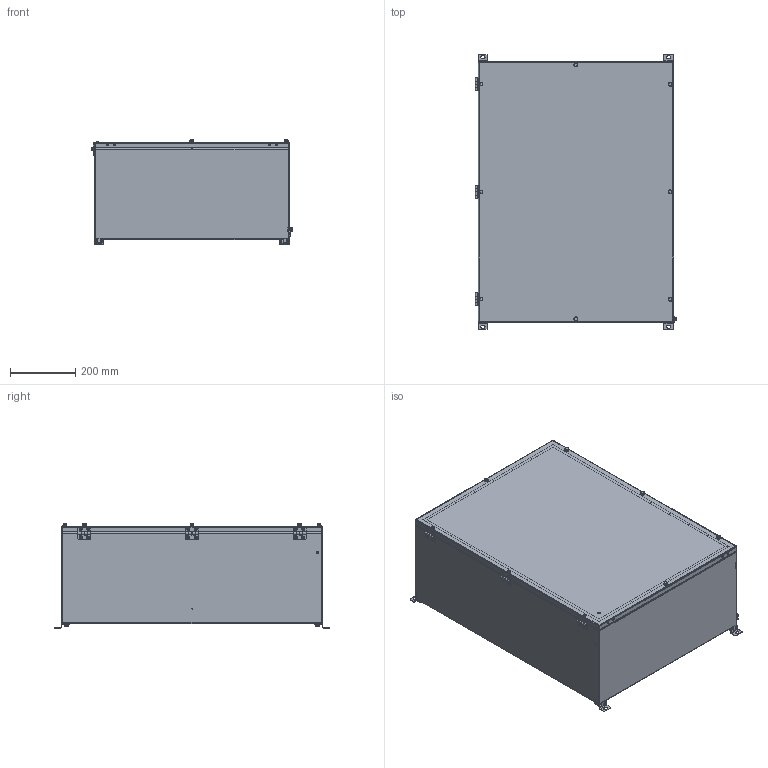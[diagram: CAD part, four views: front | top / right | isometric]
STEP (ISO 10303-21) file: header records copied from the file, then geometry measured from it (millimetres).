
FILE_DESCRIPTION (( 'STEP AP203' ), '1' );
FILE_NAME ('W4633.07.24.01.STEP', '2024-07-16T13:44:29', ( '' ), ( '' ), 'SwSTEP 2.0', 'SolidWorks 2018', '' );
FILE_SCHEMA (( 'CONFIG_CONTROL_DESIGN' ));
Length unit declared in the file: millimetre
Products named in the file (1): W4633.07.24.01
Bounding box: 619.19 x 844 x 319.8 mm (x, y, z)
Volume: 4551647.7 mm3; surface area: 4651775.9 mm2
Topology: 3 solids, 62 shells, 2452 faces, 5879 edges, 3719 vertices
Faces by surface type: plane 1471, cylinder 609, cone 234, torus 73, sphere 53, bspline 12
Full cylindrical faces by diameter (mm): 0.75 x3, 0.8 x8, 1 x12, 3.2 x12, 4 x12, 4.6 x5, 4.891 x8, 5 x25, 5.134 x8, 5.2 x5, 5.5 x3, 5.9 x18, 6 x27, 6.1 x10, 6.4 x21, 6.5 x1, 6.9 x4, 7 x21, 7.3 x8, 7.5 x20, 8 x13, 8.9 x18, 9 x5, 10 x5, 11.2 x8, 12 x29, 12.7 x16, 13 x10
Entity records: 68545 total; most frequent: CARTESIAN_POINT 14444, DIRECTION 11424, ORIENTED_EDGE 10138, EDGE_CURVE 5069, AXIS2_PLACEMENT_3D 4239, VERTEX_POINT 3461, EDGE_LOOP 3330, VECTOR 2946
